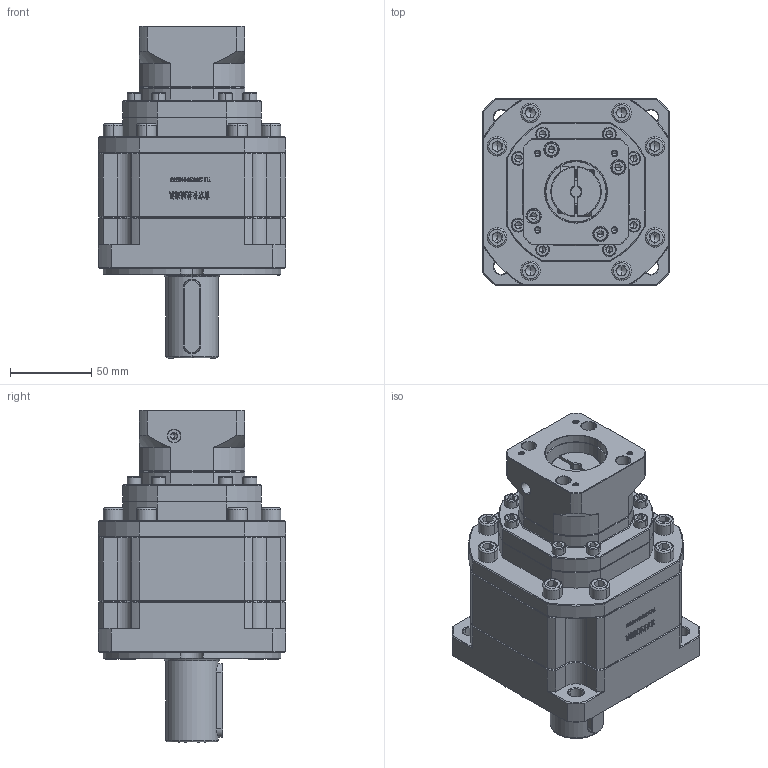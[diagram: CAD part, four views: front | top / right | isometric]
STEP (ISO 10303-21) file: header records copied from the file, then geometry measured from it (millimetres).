
FILE_DESCRIPTION (( 'STEP AP214' ), '1' );
FILE_NAME ('ZB115A-D32-L3-6.35-38.1-47.14X47.14-M4.step', '2023-03-03T09:56:50', ( '' ), ( 'Microsoft' ), 'SwSTEP 2.0', 'SolidWorks 2016', '' );
FILE_SCHEMA (( 'AUTOMOTIVE_DESIGN' ));
Length unit declared in the file: millimetre
Products named in the file (1): ZB115A-D32-L3-6.35-38.1-47.14X47.14-M4
Bounding box: 115 x 115 x 204 mm (x, y, z)
Volume: 1315850.2 mm3; surface area: 122698.3 mm2
Topology: 7 solids, 7 shells, 2272 faces, 5898 edges, 3735 vertices
Faces by surface type: plane 1126, cylinder 434, cone 345, bspline 345, torus 22
Entity records: 114523 total; most frequent: CARTESIAN_POINT 36807, ORIENTED_EDGE 11672, DIRECTION 9761, EDGE_CURVE 5836, VERTEX_POINT 3735, VECTOR 3635, LINE 3635, AXIS2_PLACEMENT_3D 3063
